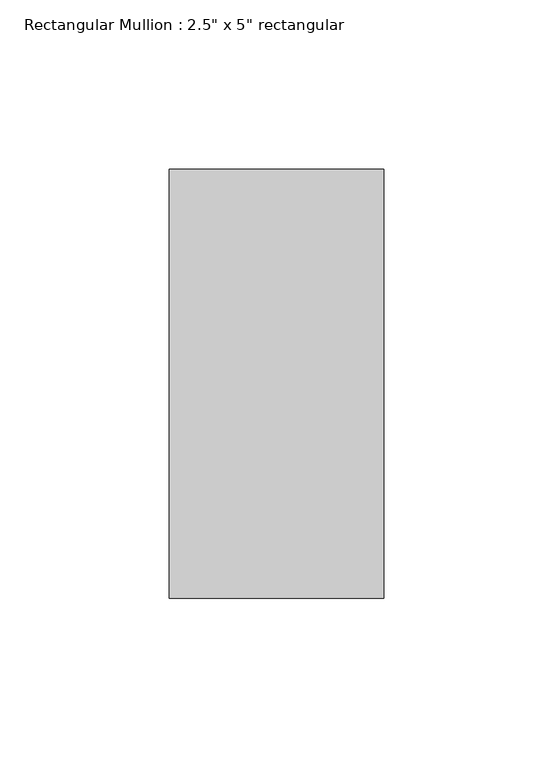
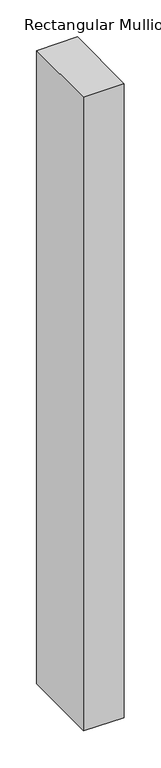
"""IFC4 building model written with IfcOpenShell, lengths in millimetres: member geometry."""

from ifc_helpers import new_model, si_unit, frame, origin, place, context, project, spatial, polyline, outline, extrude, source, transform, mapped, element, save


def member_954245ad(model_context):
    return source(origin(), model_context, "Body", "SweptSolid", [
        extrude(outline(polyline([(0.0, 0.0), (-0.6290938, -63.5), (-1047.3244199, -63.5), (-1048.1716737, 0.0), (0.0, 0.0)])), frame((0.0, -63.5, 0.0), z_axis=(0.0, 1.0, 0.0), x_axis=(0.0, 0.0, 1.0)), (0.0, 0.0, 1.0), 127.0),
    ])


if __name__ == "__main__":
    model = new_model("IFC4")
    model_context = context("Model", 3, world=origin())
    ifc_project = project(units=[si_unit("LENGTHUNIT", "METRE", prefix="MILLI")], contexts=[model_context])
    site = spatial("IfcSite", under=ifc_project)
    building = spatial("IfcBuilding", under=site)
    placement = place(None, origin())
    member_shape = member_954245ad(model_context)
    element("IfcMember", 1, ObjectType="Rectangular Mullion : 2.5\" x 5\" rectangular", at=placement, inside=building, context=model_context, shape_type="MappedRepresentation", body=[
        mapped(member_shape, transform((0.0, 0.0, 0.0), x_axis=(1.0, 0.0, 0.0), y_axis=(0.0, 1.0, 0.0), z_axis=(0.0, 0.0, 1.0))),
    ])
    save(model, "model.ifc")
